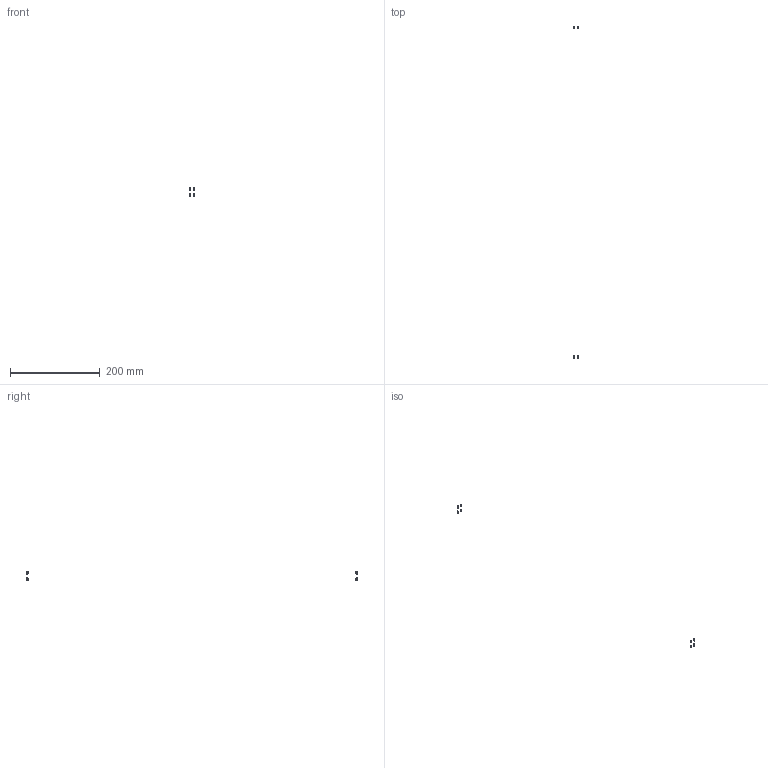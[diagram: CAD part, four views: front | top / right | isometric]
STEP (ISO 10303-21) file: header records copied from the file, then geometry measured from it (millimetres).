
FILE_DESCRIPTION(/* description */ (''),/* implementation_level */ '2;1');
FILE_NAME(/* name */ 'Y-7126~1',/* time_stamp */ '2014-02-14T19:40:06+01:00',/* author */ (''),/* organization */ (''),/* preprocessor_version */ 'ST-DEVELOPER v14',/* originating_system */ '',/* authorisation */ '');
FILE_SCHEMA (('AUTOMOTIVE_DESIGN'));
Length unit declared in the file: millimetre
Products named in the file (2): Document; washer Schnorr-like, lock, M3
Assembly tree (4 placements, depth 2):
  Document
    washer Schnorr-like, lock, M3  x4
Bounding box: 10 x 741.57 x 19.5 mm (x, y, z)
Surface area: 352.1 mm2 (no closed solid volume)
Topology: 0 solids, 64 shells, 64 faces, 256 edges, 256 vertices
Faces by surface type: bspline 64
Entity records: 3603 total; most frequent: CARTESIAN_POINT 1767, B_SPLINE_CURVE_WITH_KNOTS 240, ORIENTED_EDGE 160, PCURVE 160, DEFINITIONAL_REPRESENTATION 160, SURFACE_CURVE 160, EDGE_CURVE 160, VERTEX_POINT 160
